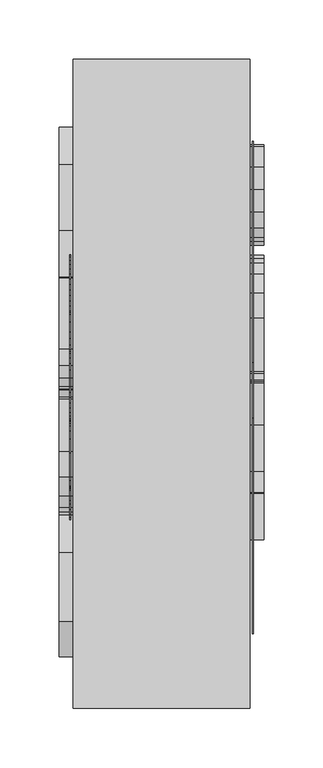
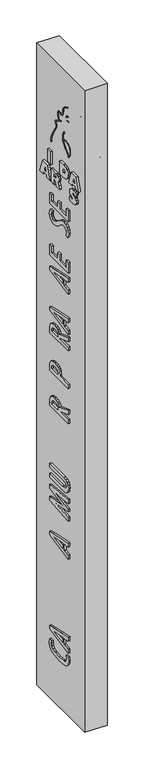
"""IFC4 building model written with IfcOpenShell, lengths in millimetres: proxy geometry, Modelos genéricos - TOTEM RETANGULAR - TOTEM RETANGULAR."""

from ifc_helpers import new_model, si_unit, point, frame, frame_2d, origin, place, context, project, spatial, polyline, circle_curve, trimmed, segment, composite_curve, outline, extrude, source, transform, mapped, element, save


def generic_models_c4e1d2f5(model_context):
    return source(origin(), model_context, "Body", "SweptSolid", [
        extrude(outline(polyline([(183.1560132, 3684.737625), (183.1560132, 3774.9026105), (243.2571429, 3774.9026105), (257.2091909, 3773.0286035), (267.8053045, 3767.4065828), (274.4939143, 3758.9735516), (276.7234509, 3748.6665136), (274.1583208, 3737.6085437), (266.4629307, 3729.2619029), (277.879753, 3709.5449578), (283.5283554, 3684.737625), (242.6989281, 3684.737625), (236.7579274, 3711.7312992), (230.8202495, 3718.2803553), (222.2842144, 3720.463374), (222.2842144, 3684.737625), (183.1560132, 3684.737625)]), holes=[polyline([(225.3942684, 3756.1891229), (222.2842144, 3756.1891229), (222.2842144, 3739.1768615), (234.1263432, 3741.2435855), (237.5952497, 3747.4437573), (234.7775939, 3753.5575387), (225.3942684, 3756.1891229)])]), frame((-142.9062385, 0.0, 0.0), z_axis=(1.0, 0.0, 0.0), x_axis=(0.0, 1.0, 0.0)), (0.0, 0.0, 1.0), 12.0),
        extrude(outline(polyline([(256.3549405, 4160.4281862), (259.9990956, 4158.3242323), (253.02492, 4146.2560142), (248.3121735, 4141.3809946), (245.3748389, 4139.4447441), (242.3262236, 4138.1472031), (237.8344848, 4136.1106848), (232.4618176, 4133.457031), (227.0653223, 4130.524468), (222.5657469, 4127.6062064), (219.8841798, 4124.9650678), (219.4389912, 4122.5219593), (221.144184, 4119.8547822), (224.6368786, 4116.6319462), (228.481001, 4112.9662087), (231.1292027, 4109.0781696), (232.3919803, 4105.1161428), (232.7266175, 4101.1940054), (232.51273, 4097.3966786), (231.8503759, 4093.710644), (230.7797983, 4090.1012307), (229.3377811, 4086.5174025), (227.553801, 4082.8735527), (225.4564066, 4079.0796843), (223.0741463, 4075.0458004), (220.4400345, 4070.6988271), (217.6193847, 4066.0880946), (214.6917167, 4061.3167686), (211.7366114, 4056.488247), (208.8336498, 4051.7059282), (206.0612516, 4047.0714746), (203.453303, 4042.6199886), (200.9861883, 4038.3006298), (198.6324839, 4034.0568667), (196.3647663, 4029.8321677), (194.1556119, 4025.5700012), (191.9775971, 4021.2138355), (189.8074147, 4016.7140536), (187.6373373, 4012.0472099), (185.4633233, 4007.1960499), (183.2813309, 4002.143319), (181.0873185, 3996.8717628), (178.8777004, 3991.3633968), (176.7032349, 3985.513276), (174.7197745, 3979.0482829), (173.0951843, 3971.6760782), (171.9973292, 3963.1043225), (171.5940742, 3953.0406764), (163.0696968, 3953.0406764), (163.7326228, 3966.436139), (165.5564058, 3977.2743149), (168.2935536, 3986.4058648), (171.6965738, 3994.6814491), (175.5377063, 4002.8515947), (179.699481, 4011.1071464), (184.1027283, 4019.4445889), (188.6683163, 4027.8602134), (193.3171136, 4036.3503113), (197.9717331, 4044.8894642), (202.5691953, 4053.2729798), (207.0536218, 4061.2078075), (211.3691838, 4068.4002763), (215.460024, 4074.5568449), (219.2205909, 4079.6074312), (222.3936697, 4084.1639422), (224.6932143, 4088.9679307), (225.8427615, 4094.6361251), (225.6301695, 4100.9484845), (224.0259858, 4106.9730143), (220.9742926, 4111.5094855), (214.8595104, 4117.2217703), (212.2781821, 4121.9462189), (214.1440752, 4127.042021), (220.6678172, 4132.9049848), (228.877079, 4137.278946), (234.281374, 4139.0357595), (240.0273777, 4142.1662973), (247.4590533, 4148.4330128), (256.3549405, 4160.4281862)])), frame((-140.9062385, 0.0, 0.0), z_axis=(1.0, 0.0, 0.0), x_axis=(0.0, 1.0, 0.0)), (0.0, 0.0, 1.0), 1.0),
        extrude(outline(polyline([(167.5, 3160.5980218), (167.5, 3235.1836885), (191.0533684, 3235.1836885), (191.0533684, 3188.0769516), (265.6390351, 3188.0769516), (265.6390351, 3231.258127), (289.1924035, 3231.258127), (289.1924035, 3188.0769516), (355.9269474, 3188.0769516), (355.9269474, 3235.1836885), (379.4803158, 3235.1836885), (379.4803158, 3160.5980218), (167.5, 3160.5980218)])), frame((-304.9062385, 0.0, 0.0), z_axis=(1.0, 0.0, 0.0), x_axis=(0.0, 1.0, 0.0)), (0.0, 0.0, 1.0), 12.0),
        extrude(outline(polyline([(167.5, 1240.3851263), (167.5, 1268.4774251), (379.4803158, 1222.9654475), (379.4803158, 1199.8414374), (167.5, 1154.6361443), (167.5, 1182.7284431), (210.6811754, 1190.7635766), (210.6811754, 1232.4726666), (167.5, 1240.3851263)]), holes=[polyline([(326.2398893, 1211.7407954), (230.3089825, 1229.0991372), (230.3089825, 1194.4437905), (326.2398893, 1211.7407954)])]), frame((-304.9062385, 0.0, 0.0), z_axis=(1.0, 0.0, 0.0), x_axis=(0.0, 1.0, 0.0)), (0.0, 0.0, 1.0), 12.0),
        extrude(outline(polyline([(356.4466316, 2068.6175946), (380.0, 2068.6175946), (380.0, 1994.0319279), (168.0196842, 1994.0319279), (168.0196842, 2068.6175946), (191.5730526, 2068.6175946), (191.5730526, 2021.5108577), (258.3075965, 2021.5108577), (258.3075965, 2064.6920331), (281.8609649, 2064.6920331), (281.8609649, 2021.5108577), (356.4466316, 2021.5108577), (356.4466316, 2068.6175946)])), frame((-142.9062385, 0.0, 0.0), z_axis=(1.0, 0.0, 0.0), x_axis=(0.0, 1.0, 0.0)), (0.0, 0.0, 1.0), 12.0),
        extrude(outline(polyline([(380.0, 2198.1611209), (380.0, 2168.7807473), (281.8609649, 2134.0027267), (281.8609649, 2131.426577), (380.0, 2131.426577), (380.0, 2103.9476472), (168.0196842, 2103.9476472), (168.0196842, 2142.7739029), (171.4507169, 2163.5709446), (181.7438149, 2178.4259743), (198.8989782, 2187.3389921), (222.9162069, 2190.3099981), (244.7981449, 2188.5848978), (260.5157248, 2183.4095972), (271.5870347, 2174.1400586), (279.5301628, 2160.1322448), (380.0, 2198.1611209)]), holes=[polyline([(262.2331579, 2131.426577), (260.1170349, 2145.7410753), (254.3820351, 2155.4399722), (243.7400835, 2160.9832942), (226.9031052, 2162.8310682), (210.5644893, 2161.1519707), (199.7001915, 2156.114678), (193.6048373, 2146.9984817), (191.5730526, 2133.0826732), (191.5730526, 2131.426577), (262.2331579, 2131.426577)])]), frame((-142.9062385, 0.0, 0.0), z_axis=(1.0, 0.0, 0.0), x_axis=(0.0, 1.0, 0.0)), (0.0, 0.0, 1.0), 12.0),
        extrude(outline(polyline([(168.0196842, 1550.4434892), (380.0, 1570.0712962), (380.0, 1542.5310295), (244.3841209, 1531.9810832), (380.0, 1503.9501213), (380.0, 1486.3464319), (244.3841209, 1459.7875556), (380.0, 1448.5015665), (380.0, 1420.8999629), (168.0196842, 1440.5277699), (168.0196842, 1466.1665928), (316.5776486, 1494.8109237), (168.0196842, 1524.6206556), (168.0196842, 1550.4434892)])), frame((-142.9062385, 0.0, 0.0), z_axis=(1.0, 0.0, 0.0), x_axis=(0.0, 1.0, 0.0)), (0.0, 0.0, 1.0), 12.0),
        extrude(outline(polyline([(380.0, 2708.4841034), (380.0, 2679.1037298), (281.8609649, 2644.3257092), (281.8609649, 2641.7495595), (380.0, 2641.7495595), (380.0, 2614.2706297), (168.0196842, 2614.2706297), (168.0196842, 2653.0968855), (171.4507169, 2673.8939271), (181.7438149, 2688.7489568), (198.8989782, 2697.6619746), (222.9162069, 2700.6329806), (244.7981449, 2698.9078804), (260.5157248, 2693.7325797), (271.5870347, 2684.4630411), (279.5301628, 2670.4552273), (380.0, 2708.4841034)]), holes=[polyline([(262.2331579, 2641.7495595), (260.1170349, 2656.0640579), (254.3820351, 2665.7629547), (243.7400835, 2671.3062767), (226.9031052, 2673.1540508), (210.5644893, 2671.4749532), (199.7001915, 2666.4376606), (193.6048373, 2657.3214642), (191.5730526, 2643.4056558), (191.5730526, 2641.7495595), (262.2331579, 2641.7495595)])]), frame((-142.9062385, 0.0, 0.0), z_axis=(1.0, 0.0, 0.0), x_axis=(0.0, 1.0, 0.0)), (0.0, 0.0, 1.0), 12.0),
        extrude(outline(polyline([(168.0196842, 562.7967747), (380.0, 608.3087523), (380.0, 580.2164535), (336.8188246, 572.3039938), (336.8188246, 530.5949039), (380.0, 522.5597704), (380.0, 494.4674716), (168.0196842, 539.6727646), (168.0196842, 562.7967747)]), holes=[polyline([(317.1910175, 534.2751177), (317.1910175, 568.9304644), (221.2601107, 551.5721226), (317.1910175, 534.2751177)])]), frame((-142.9062385, 0.0, 0.0), z_axis=(1.0, 0.0, 0.0), x_axis=(0.0, 1.0, 0.0)), (0.0, 0.0, 1.0), 12.0),
        extrude(outline(polyline([(81.6480493, 3741.9777511), (71.7330907, 3771.1112488), (89.2105312, 3775.7364573), (108.1499628, 3777.2781935), (127.0329084, 3775.3410552), (140.6726219, 3769.5296401), (148.936195, 3759.903757), (151.6907193, 3746.5232147), (148.1686496, 3733.4849112), (139.8618813, 3725.5237045), (127.7938084, 3719.8352296), (117.8522681, 3714.7581329), (115.9649704, 3710.9037924), (117.8921406, 3707.3019777), (122.6635483, 3705.8266956), (134.7714937, 3709.7341994), (145.3377029, 3720.2605362), (155.0931716, 3690.4359154), (136.0141862, 3685.3920457), (113.5992028, 3683.7107558), (94.7461615, 3685.5947309), (81.0898345, 3691.246656), (72.7963571, 3700.4937504), (70.0318646, 3713.1632334), (72.9159745, 3725.2047246), (81.6081768, 3733.6842737), (98.1818409, 3741.0739747), (110.2632046, 3746.4567606), (112.5625181, 3749.845922), (110.7150928, 3753.8331708), (105.172817, 3755.1622537), (92.6462105, 3751.8661281), (81.6480493, 3741.9777511)])), frame((-304.9062385, 0.0, 0.0), z_axis=(1.0, 0.0, 0.0), x_axis=(0.0, 1.0, 0.0)), (0.0, 0.0, 1.0), 12.0),
        extrude(outline(polyline([(492.2815089, 3685.411982), (452.2229496, 3685.411982), (447.8103943, 3699.0217911), (416.3111291, 3699.0217911), (412.270717, 3685.411982), (372.504556, 3685.411982), (402.0101968, 3775.5769674), (460.5695904, 3775.5769674), (492.2815089, 3685.411982)]), holes=[polyline([(423.940065, 3721.1377309), (439.6498252, 3721.1377309), (431.5424193, 3744.3169371), (423.940065, 3721.1377309)])]), frame((-304.9062385, 0.0, 0.0), z_axis=(1.0, 0.0, 0.0), x_axis=(0.0, 1.0, 0.0)), (0.0, 0.0, 1.0), 12.0),
        extrude(outline(polyline([(367.9422262, 4223.2868752), (371.1665303, 4217.3795547), (369.0094034, 4217.2436296), (366.6349155, 4216.8397789), (364.1073367, 4216.1738895), (361.490937, 4215.2518485), (358.8499863, 4214.0795428), (356.2487039, 4212.6655743), (353.7502631, 4211.0746173), (351.416853, 4209.4240956), (349.3106245, 4207.8334818), (347.4937283, 4206.4222485), (346.0278472, 4205.3091331), (344.9522909, 4204.5777338), (344.1336518, 4204.9962003), (344.6806499, 4206.1064537), (345.6461874, 4207.7520277), (347.0354495, 4209.962787), (348.8742033, 4212.686564), (351.2461489, 4215.6402938), (354.2451053, 4218.5005831), (357.9648911, 4220.9440387), (362.4993251, 4222.6472672), (367.9422262, 4223.2868752)])), frame((-140.9062385, 0.0, 0.0), z_axis=(1.0, 0.0, 0.0), x_axis=(0.0, 1.0, 0.0)), (0.0, 0.0, 1.0), 1.0),
        extrude(outline(polyline([(304.2428571, 3775.5769674), (364.3439868, 3775.5769674), (364.3439868, 3685.411982), (325.2157856, 3685.411982), (325.2157856, 3721.1377309), (316.6797505, 3718.9547122), (310.7420726, 3712.4056561), (304.8010719, 3685.411982), (263.9716446, 3685.411982), (269.620247, 3710.2193147), (281.0370693, 3729.9362598), (273.3416792, 3738.2829006), (270.7765491, 3749.3408705), (273.0060857, 3759.6479086), (279.6946955, 3768.0809397), (290.2908091, 3773.7029605), (304.2428571, 3775.5769674)]), holes=[polyline([(325.2157856, 3739.8512184), (325.2157856, 3756.8634798), (322.1057316, 3756.8634798), (312.7224061, 3754.2318957), (309.9047503, 3748.1181142), (313.3736568, 3741.9179424), (325.2157856, 3739.8512184)])]), frame((-304.9062385, 0.0, 0.0), z_axis=(1.0, 0.0, 0.0), x_axis=(0.0, 1.0, 0.0)), (0.0, 0.0, 1.0), 12.0),
        extrude(outline(polyline([(-292.9062385, 550.0), (-142.9062385, 550.0), (-142.9062385, 0.0), (-292.9062385, 0.0), (-292.9062385, 550.0)])), frame((0.0, 0.0, 37.9), z_axis=(0.0, 0.0, 1.0), x_axis=(1.0, 0.0, 0.0)), (0.0, 0.0, 1.0), 4500.0),
        extrude(outline(polyline([(275.4369384, 3799.737625), (200.5829883, 3799.737625), (200.5829883, 3889.9026105), (239.7111895, 3889.9026105), (239.7111895, 3821.8535649), (275.4369384, 3821.8535649), (275.4369384, 3799.737625)])), frame((-142.9062385, 0.0, 0.0), z_axis=(1.0, 0.0, 0.0), x_axis=(0.0, 1.0, 0.0)), (0.0, 0.0, 1.0), 12.0),
        extrude(outline(polyline([(193.5911825, 1697.3641762), (216.9375389, 1700.2891795), (379.4803158, 1700.2891795), (379.4803158, 1672.8102497), (231.3517097, 1672.8102497), (196.8497052, 1669.3140465), (189.5582816, 1663.2110253), (187.127807, 1651.8943678), (189.4356078, 1640.3706983), (196.35901, 1633.7693148), (229.6956135, 1629.6290742), (379.4803158, 1629.6290742), (379.4803158, 1602.1501444), (216.6308544, 1602.1501444), (193.4186725, 1605.3588308), (176.8385426, 1614.9848901), (166.8904646, 1631.0283222), (163.5744386, 1653.4891271), (166.9096324, 1673.96415), (176.9152137, 1688.5891664), (193.5911825, 1697.3641762)])), frame((-304.9062385, 0.0, 0.0), z_axis=(1.0, 0.0, 0.0), x_axis=(0.0, 1.0, 0.0)), (0.0, 0.0, 1.0), 12.0),
        extrude(outline(polyline([(192.9654466, 4038.3597501), (190.6444837, 4033.382429), (174.9753262, 4042.1915276), (167.2035293, 4049.4825176), (163.1018303, 4056.0722113), (160.8051313, 4062.5835687), (159.6465239, 4069.5409472), (159.1604514, 4077.2788337), (159.4022159, 4085.6186846), (160.5145994, 4094.2957897), (162.6354341, 4103.0114715), (165.8844864, 4111.343085), (170.3774027, 4118.8397125), (176.0811873, 4125.0574316), (181.524955, 4129.6199863), (184.4966115, 4132.2320926), (184.4053471, 4133.6772573), (182.3380612, 4135.7881831), (179.0404013, 4139.3371316), (174.9509179, 4144.285708), (170.4929486, 4150.5654511), (165.9835105, 4157.9569467), (161.665875, 4166.1360764), (157.7818304, 4174.7766168), (154.5731652, 4183.5523445), (152.2397295, 4192.1696596), (150.714482, 4200.5425742), (149.825751, 4208.6664917), (149.401619, 4216.5370066), (149.2701685, 4224.1497134), (149.2609439, 4231.500529), (149.3188729, 4238.610818), (149.5857651, 4245.5453673), (150.2226656, 4252.3732062), (151.3906192, 4259.163364), (153.250671, 4265.9848698), (155.942558, 4272.8959597), (159.4147096, 4279.857963), (163.5145153, 4286.7810276), (168.0884505, 4293.5748386), (172.9829908, 4300.149081), (178.0481636, 4306.4141802), (183.2437373, 4312.3034412), (188.6575215, 4317.7768634), (194.3845647, 4322.7959555), (200.5199157, 4327.3222261), (207.1584933, 4331.3172166), (214.3005534, 4334.7663953), (221.6845401, 4337.7214051), (229.0040132, 4340.2452339), (235.9525327, 4342.4008694), (242.3152718, 4344.2339566), (248.2550725, 4345.7186462), (254.0320826, 4346.8106684), (259.90671, 4347.4665282), (266.1430909, 4347.6538267), (273.0081489, 4347.3484614), (280.7503491, 4346.5292696), (289.1813592, 4345.2396924), (297.6700142, 4343.5886675), (305.5751323, 4341.6844909), (312.7394036, 4339.4581588), (319.703492, 4336.5849163), (327.0624224, 4332.7200665), (335.55878, 4327.2322287), (346.4456763, 4318.498159), (361.0865548, 4304.6802574), (368.8600245, 4291.9892541), (374.2374572, 4279.81643), (377.5146229, 4268.1518216), (378.9872914, 4256.9854654), (378.9512327, 4246.3073979), (377.7022168, 4236.1076555), (382.3036954, 4219.26651), (391.9540782, 4205.4008262), (400.5676847, 4194.0133906), (405.4652421, 4185.2430078), (407.3814193, 4179.7856054), (406.3313262, 4175.6474524), (401.6783738, 4169.7336539), (394.6051331, 4166.0868682), (389.5506059, 4162.4966895), (390.7078325, 4154.4286765), (394.2032398, 4145.3291487), (394.5581674, 4139.790221), (390.8034694, 4137.6264165), (390.4623489, 4131.2435855), (388.328997, 4123.4519778), (388.9447759, 4114.2970406), (390.1878716, 4105.9971634), (389.0221032, 4099.8245566), (384.7384798, 4095.3545184), (378.3586528, 4092.3712675), (370.9632323, 4090.8161021), (362.1643323, 4090.9628856), (351.2256881, 4093.164377), (337.4977644, 4097.7550852), (321.770045, 4104.7667153), (306.0167938, 4113.981666), (292.2475543, 4125.1749125), (289.1028559, 4138.7125875), (298.2087916, 4127.7059462), (306.7411082, 4120.4290583), (315.3733998, 4114.4893942), (324.4142799, 4109.2195106), (334.034754, 4104.601636), (344.1707078, 4100.6971533), (354.0556616, 4097.8006143), (362.8255146, 4096.2410356), (370.4433831, 4096.1242126), (377.6431053, 4097.3502619), (382.5845839, 4100.5840396), (383.728801, 4106.8780417), (383.1852192, 4115.8518584), (382.9826802, 4126.3641423), (384.6890382, 4135.4198828), (387.1787998, 4140.3229764), (385.6378992, 4147.3382627), (381.8198633, 4156.5978261), (382.2304779, 4165.1246961), (388.4580648, 4168.8713495), (395.6979416, 4171.8675284), (399.6391929, 4177.7213967), (399.5016323, 4184.25622), (396.0955668, 4191.3301278), (390.4305425, 4199.9696724), (383.1758115, 4209.7599716), (375.7753175, 4220.978125), (372.2937843, 4237.0613081), (373.4516043, 4246.4818405), (373.486312, 4256.2688325), (372.1364011, 4266.4804996), (369.1303679, 4277.17793), (364.1565321, 4288.4326409), (356.8888956, 4300.2946611), (345.86224, 4310.8702591), (337.1501775, 4318.3687815), (330.2034338, 4323.5503037), (324.3979111, 4327.217168), (319.1808986, 4330.0551671), (314.3246183, 4332.2997562), (309.5535087, 4334.108635), (304.570684, 4335.6370018), (299.1033418, 4337.0206336), (293.160092, 4338.3010516), (287.0176068, 4339.4302176), (280.9568389, 4340.3589148), (275.2688467, 4341.0395715), (270.1330742, 4341.4440538), (265.4747713, 4341.5835311), (261.1827147, 4341.4723073), (257.1216006, 4341.1221375), (253.154722, 4340.5428137), (249.1537525, 4339.7385024), (244.9947091, 4338.7143016), (240.5663117, 4337.48662), (235.781618, 4336.0737806), (230.7057181, 4334.4811907), (225.4721418, 4332.7071758), (220.2076915, 4330.7363282), (215.0358428, 4328.5454336), (210.0970175, 4326.1252368), (205.4641252, 4323.4523899), (201.0999424, 4320.4996554), (196.9483154, 4317.2687355), (192.9708964, 4313.7655234), (189.1291682, 4309.9968946), (185.3867086, 4305.9714662), (181.7079613, 4301.6998704), (178.0682661, 4297.2035644), (174.5129968, 4292.5448389), (171.1075529, 4287.769058), (167.9146278, 4282.9186775), (164.9967334, 4278.0375955), (162.4142486, 4273.173658), (160.2264122, 4268.3765385), (158.4858999, 4263.6897563), (157.1701629, 4259.0636815), (156.2138302, 4254.4280832), (155.5588633, 4249.7402785), (155.1492071, 4244.958983), (154.9287994, 4240.0502703), (154.8414845, 4234.9834105), (154.8242898, 4229.7338143), (154.8328128, 4224.3272706), (154.8979268, 4218.8447728), (155.087653, 4213.2815055), (155.466797, 4207.6331049), (156.0985144, 4201.8973483), (157.0451082, 4196.0690194), (158.3705604, 4190.1404635), (160.1439101, 4184.0944875), (162.3842822, 4177.9270368), (165.0161226, 4171.7553685), (167.9365058, 4165.7344704), (171.0443652, 4160.0093362), (174.234723, 4154.7240762), (177.3941306, 4150.0344719), (180.4252306, 4146.0338296), (183.2134509, 4142.729465), (185.5963883, 4140.1398219), (187.4286295, 4138.2684299), (189.405009, 4135.9091065), (189.0533554, 4128.9789013), (186.231122, 4126.174702), (182.7907481, 4123.4134394), (178.8352985, 4119.9290095), (175.1729101, 4115.8820183), (172.1077254, 4111.2014244), (169.582634, 4105.9077294), (167.604695, 4100.1842256), (166.1621636, 4094.2246838), (165.2297492, 4088.220061), (164.7660849, 4082.312206), (164.7210253, 4076.6198144), (165.0392936, 4071.2478499), (165.6688187, 4066.3845725), (166.6597853, 4062.1225158), (168.2236735, 4058.155733), (170.6615293, 4054.0662054), (174.3632017, 4049.780728), (181.0826987, 4044.6999223), (192.9654466, 4038.3597501)])), frame((-140.9062385, 0.0, 0.0), z_axis=(1.0, 0.0, 0.0), x_axis=(0.0, 1.0, 0.0)), (0.0, 0.0, 1.0), 1.0),
        extrude(outline(polyline([(-130.9062385, 142.7412995), (-142.9062385, 142.7412995), (-142.9062385, 181.8695007), (-130.9062385, 181.8695007), (-130.9062385, 142.7412995)])), frame((0.0, 0.0, 3799.737625), z_axis=(0.0, 0.0, 1.0), x_axis=(1.0, 0.0, 0.0)), (0.0, 0.0, 1.0), 90.1649854),
        extrude(outline(polyline([(217.1187736, 3890.5769674), (261.8557047, 3890.5769674), (261.8557047, 3800.411982), (218.0757133, 3800.411982), (202.8876182, 3801.8806186), (190.1250994, 3806.2865285), (179.9642605, 3813.3439588), (172.5812049, 3822.7671567), (166.5870409, 3845.3084031), (169.8798438, 3862.6795169), (179.7582526, 3877.3127198), (195.6839888, 3887.2609055), (217.1187736, 3890.5769674)]), holes=[polyline([(222.7275035, 3834.4365048), (222.7275035, 3856.5524446), (219.7769394, 3856.5524446), (209.2306664, 3853.83447), (205.7152421, 3845.6805463), (209.4499651, 3837.0680889), (222.7275035, 3834.4365048)])]), frame((-304.9062385, 0.0, 0.0), z_axis=(1.0, 0.0, 0.0), x_axis=(0.0, 1.0, 0.0)), (0.0, 0.0, 1.0), 12.0),
        extrude(outline(polyline([(356.4466316, 1817.3816647), (380.0, 1817.3816647), (380.0, 1742.795998), (168.0196842, 1742.795998), (168.0196842, 1770.2749279), (356.4466316, 1770.2749279), (356.4466316, 1817.3816647)])), frame((-142.9062385, 0.0, 0.0), z_axis=(1.0, 0.0, 0.0), x_axis=(0.0, 1.0, 0.0)), (0.0, 0.0, 1.0), 12.0),
        extrude(outline(polyline([(287.5009044, 4158.9985892), (291.1450595, 4161.1025431), (300.0409467, 4149.1073697), (307.4726223, 4142.8406542), (313.218626, 4139.7101164), (318.622921, 4137.9533029), (326.8321828, 4133.5793418), (333.3559248, 4127.7163779), (335.2218179, 4122.6205758), (332.6404896, 4117.8961272), (326.5257074, 4112.1838424), (323.4740142, 4107.6473712), (321.8698305, 4101.6228414), (321.6572385, 4095.310482), (322.8067857, 4089.6422877), (325.1063303, 4084.8382992), (328.2794091, 4080.2817882), (332.039976, 4075.2312019), (336.1308162, 4069.0746333), (340.4463782, 4061.8821644), (344.9308047, 4053.9473367), (349.5282669, 4045.5638211), (354.1828864, 4037.0246682), (358.8316837, 4028.5345704), (363.3972717, 4020.1189458), (367.800519, 4011.7815033), (371.9622937, 4003.5259516), (375.8034262, 3995.355806), (379.2064464, 3987.0802217), (381.9435942, 3977.9486719), (383.7673772, 3967.1104959), (384.4303032, 3953.7150334), (375.9059258, 3953.7150334), (375.5026708, 3963.7786794), (374.4048157, 3972.3504351), (372.7802255, 3979.7226399), (370.7967651, 3986.187633), (368.6222996, 3992.0377538), (366.4126815, 3997.5461197), (364.2186691, 4002.8176759), (362.0366767, 4007.8704068), (359.8626627, 4012.7215668), (357.6925853, 4017.3884105), (355.5224029, 4021.8881924), (353.3443881, 4026.2443581), (351.1352337, 4030.5065247), (348.8675161, 4034.7312237), (346.5138117, 4038.9749867), (344.046697, 4043.2943455), (341.4387484, 4047.7458315), (338.6663502, 4052.3802851), (335.7633886, 4057.1626039), (332.8082833, 4061.9911255), (329.8806153, 4066.7624516), (327.0599655, 4071.373184), (324.4258537, 4075.7201574), (322.0435934, 4079.7540412), (319.946199, 4083.5479096), (318.1622189, 4087.1917594), (316.7202017, 4090.7755877), (315.6496241, 4094.3850009), (314.98727, 4098.0710355), (314.7733825, 4101.8683624), (315.1080197, 4105.7904997), (316.3707973, 4109.7525265), (319.018999, 4113.6405656), (322.8631214, 4117.3063032), (326.355816, 4120.5291391), (328.0610088, 4123.1963162), (327.6158202, 4125.6394247), (324.9342531, 4128.2805633), (320.4346777, 4131.1988249), (315.0381824, 4134.131388), (309.6655152, 4136.7850418), (305.1737764, 4138.82156), (302.1251611, 4140.1191011), (299.1878265, 4142.0553515), (294.47508, 4146.9303712), (287.5009044, 4158.9985892)])), frame((-295.9062385, 0.0, 0.0), z_axis=(1.0, 0.0, 0.0), x_axis=(0.0, 1.0, 0.0)), (0.0, 0.0, 1.0), 1.0),
        extrude(outline(polyline([(167.5, 2679.7780867), (167.5, 2709.1584603), (267.9698372, 2671.1295842), (275.9129653, 2685.1373981), (286.9842752, 2694.4069366), (302.7018551, 2699.5822373), (324.5837931, 2701.3073375), (348.6010218, 2698.3363316), (365.7561851, 2689.4233137), (376.0492831, 2674.568284), (379.4803158, 2653.7712424), (379.4803158, 2614.9449866), (167.5, 2614.9449866), (167.5, 2642.4239164), (265.6390351, 2642.4239164), (265.6390351, 2645.0000661), (167.5, 2679.7780867)]), holes=[polyline([(287.3829651, 2656.7384148), (285.2668421, 2642.4239164), (355.9269474, 2642.4239164), (355.9269474, 2644.0800127), (353.8951627, 2657.9958212), (347.7998085, 2667.1120175), (336.9355107, 2672.1493101), (320.5968948, 2673.8284077), (303.7599165, 2671.9806337), (293.1179649, 2666.4373116), (287.3829651, 2656.7384148)])]), frame((-304.9062385, 0.0, 0.0), z_axis=(1.0, 0.0, 0.0), x_axis=(0.0, 1.0, 0.0)), (0.0, 0.0, 1.0), 12.0),
        extrude(outline(polyline([(167.5, 3097.1756703), (167.5, 3125.2679691), (379.4803158, 3079.7559916), (379.4803158, 3056.6319815), (167.5, 3011.4266884), (167.5, 3039.5189872), (210.6811754, 3047.5541207), (210.6811754, 3089.2632106), (167.5, 3097.1756703)]), holes=[polyline([(326.2398893, 3068.5313395), (230.3089825, 3085.8896813), (230.3089825, 3051.2343345), (326.2398893, 3068.5313395)])]), frame((-304.9062385, 0.0, 0.0), z_axis=(1.0, 0.0, 0.0), x_axis=(0.0, 1.0, 0.0)), (0.0, 0.0, 1.0), 12.0),
        extrude(outline(polyline([(177.1900826, 4208.5627691), (176.3334697, 4208.7679496), (179.5577738, 4212.0044376), (183.9976059, 4210.8764795), (187.7047346, 4209.891667), (190.7248347, 4209.0422562), (193.1035811, 4208.3205032), (194.8866485, 4207.7186641), (196.1197119, 4207.228995), (196.8484461, 4206.8437519), (197.1185258, 4206.5551909), (196.975626, 4206.3555681), (196.4654215, 4206.2371397), (195.6335871, 4206.1921616), (194.5257976, 4206.21289), (193.1877279, 4206.2915809), (191.6650528, 4206.4204905), (190.0034472, 4206.5918748), (188.2485858, 4206.7979899), (186.4461436, 4207.0310918), (184.6417953, 4207.2834368), (182.8812159, 4207.5472808), (181.21008, 4207.8148799), (179.6740627, 4208.0784903), (178.3188386, 4208.330368), (177.1900826, 4208.5627691)])), frame((-295.9062385, 0.0, 0.0), z_axis=(1.0, 0.0, 0.0), x_axis=(0.0, 1.0, 0.0)), (0.0, 0.0, 1.0), 1.0),
        extrude(outline(polyline([(163.5744386, 442.6987816), (168.9720855, 467.6628986), (191.0533684, 467.6628986), (187.127807, 447.0537013), (189.6962896, 433.9889422), (197.4017373, 423.3776591), (209.4467704, 415.6875456), (225.0340093, 411.3862957), (273.1221365, 408.7794776), (316.2419751, 411.7543171), (342.3101563, 420.6788356), (355.4669207, 433.8049315), (359.8525088, 449.3845034), (355.9269474, 467.6628986), (380.2776955, 467.6628986), (383.4058772, 443.6801719), (377.4485311, 419.6667768), (359.5764928, 399.5176061), (344.8498872, 391.5476431), (324.4994548, 385.8548124), (266.9271099, 381.3005478), (214.3690564, 385.8548124), (196.238253, 391.5476431), (183.5395985, 399.5176061), (168.5657286, 419.4214292), (163.5744386, 442.6987816)])), frame((-304.9062385, 0.0, 0.0), z_axis=(1.0, 0.0, 0.0), x_axis=(0.0, 1.0, 0.0)), (0.0, 0.0, 1.0), 12.0),
        extrude(outline(polyline([(167.5, 1543.2053864), (167.5, 1570.7456532), (379.4803158, 1551.1178461), (379.4803158, 1525.2950125), (230.9223514, 1495.4852806), (379.4803158, 1466.8409498), (379.4803158, 1441.2021268), (167.5, 1421.5743198), (167.5, 1449.1759234), (303.1158791, 1460.4619125), (167.5, 1487.0207888), (167.5, 1504.6244783), (303.1158791, 1532.6554402), (167.5, 1543.2053864)])), frame((-304.9062385, 0.0, 0.0), z_axis=(1.0, 0.0, 0.0), x_axis=(0.0, 1.0, 0.0)), (0.0, 0.0, 1.0), 12.0),
        extrude(outline(polyline([(167.5, 3521.7496709), (167.5, 3596.3353376), (191.0533684, 3596.3353376), (191.0533684, 3549.2286008), (265.6390351, 3549.2286008), (265.6390351, 3592.4097762), (289.1924035, 3592.4097762), (289.1924035, 3549.2286008), (355.9269474, 3549.2286008), (355.9269474, 3596.3353376), (379.4803158, 3596.3353376), (379.4803158, 3521.7496709), (167.5, 3521.7496709)])), frame((-304.9062385, 0.0, 0.0), z_axis=(1.0, 0.0, 0.0), x_axis=(0.0, 1.0, 0.0)), (0.0, 0.0, 1.0), 12.0),
        extrude(outline(polyline([(222.755786, 4104.0177266), (232.0037649, 4109.5398734), (243.138218, 4088.601115), (247.485044, 4073.1775758), (248.4465075, 4061.9818512), (248.1935177, 4053.6751716), (246.7403966, 4046.8288056), (243.8891799, 4040.0246914), (239.6486205, 4032.5767117), (234.2902467, 4024.7291858), (228.1022732, 4016.7853529), (221.3536883, 4008.9702429), (214.28325, 4001.3859144), (207.1270649, 3994.1236409), (200.119232, 3987.2717689), (193.4831658, 3980.9030688), (187.4390493, 3975.0849055), (182.4725234, 3969.6735297), (179.8022096, 3963.9504518), (178.6326853, 3959.825196), (175.4244693, 3962.0397259), (171.0754405, 3967.7068489), (166.7778145, 3975.2764456), (163.2742893, 3984.5063767), (160.8609117, 3994.5518114), (159.6997599, 4004.4226794), (159.8606475, 4013.6328433), (161.337828, 4022.1088691), (164.0938586, 4029.7799325), (167.9975878, 4036.5448711), (172.9431476, 4042.321197), (179.0755408, 4047.1676311), (186.5910224, 4051.1799295), (195.2392007, 4054.2992404), (204.482795, 4056.3652934), (214.0223274, 4057.197282), (223.9064808, 4056.5874522), (233.6954152, 4054.7594584), (240.4684609, 4054.029347), (242.6638665, 4056.6493166), (242.9211407, 4063.1527803), (241.7989796, 4072.3530126), (238.6641904, 4083.1239035), (232.8125748, 4094.8724273), (222.755786, 4104.0177266)]), holes=[composite_curve([segment(trimmed(circle_curve(frame_2d((208.8495906, 4002.2573097)), 43.5117173), [point((165.417942, 4004.8957651))], [point((176.313165, 3973.3669902))], True, "CARTESIAN"), True, "CONTINUOUS"), segment(trimmed(circle_curve(frame_2d((2.4591785, 4193.8956061)), 280.8168069), [point((176.313165, 3973.3669902))], [point((240.7682511, 4045.3464056))], True, "CARTESIAN"), True, "CONTINUOUS"), segment(trimmed(circle_curve(frame_2d((214.4265662, 3990.112048)), 61.1941061), [point((240.7682511, 4045.3464056))], [point((184.1427532, 4043.2873175))], True, "CARTESIAN"), True, "CONTINUOUS"), segment(trimmed(circle_curve(frame_2d((202.8801647, 4010.3863448)), 37.8624431), [point((184.1427532, 4043.2873175))], [point((165.417942, 4004.8957651))], True, "CARTESIAN"), True, "CONTINUOUS")], self_intersect=False)]), frame((-295.9062385, 0.0, 0.0), z_axis=(1.0, 0.0, 0.0), x_axis=(0.0, 1.0, 0.0)), (0.0, 0.0, 1.0), 1.0),
        extrude(outline(polyline([(168.0196842, 1699.6148226), (330.5624611, 1699.6148226), (353.9088175, 1696.6898193), (370.5847863, 1687.9148095), (380.5903676, 1673.2897931), (383.9255614, 1652.8147702), (380.6095354, 1630.3539653), (370.6614574, 1614.3105332), (354.0813275, 1604.6844739), (330.8691456, 1601.4757875), (168.0196842, 1601.4757875), (168.0196842, 1628.9547173), (317.8043865, 1628.9547173), (351.14099, 1633.0949579), (358.0643922, 1639.6963414), (360.372193, 1651.2200109), (357.9417184, 1662.5366684), (350.6502948, 1668.6396896), (316.1482903, 1672.1358928), (168.0196842, 1672.1358928), (168.0196842, 1699.6148226)])), frame((-142.9062385, 0.0, 0.0), z_axis=(1.0, 0.0, 0.0), x_axis=(0.0, 1.0, 0.0)), (0.0, 0.0, 1.0), 12.0),
        extrude(outline(composite_curve([segment(trimmed(circle_curve(frame_2d((280.2613291, 4161.9260144)), 3.0071864), [point((279.1865583, 4164.7345795))], [point((283.0698942, 4160.8512436))], False, "CARTESIAN"), True, "CONTINUOUS"), segment(polyline([(283.0698942, 4160.8512436), (274.5489909, 4156.2495611), (267.7735567, 4155.5857921), (261.7678609, 4156.7857972), (255.9523886, 4159.8862908), (251.2706089, 4164.6939014), (248.2498924, 4170.8414148), (246.3244942, 4177.6677003), (244.8975915, 4184.5540604), (244.0029507, 4191.391048), (243.9323518, 4198.2735958), (244.9412875, 4205.036709), (247.2285446, 4211.1169808), (250.8792686, 4215.9904268), (255.6124932, 4219.3788129), (261.200793, 4220.9920849), (267.8548225, 4220.32748), (275.0814123, 4217.465559), (280.3851216, 4214.2146479), (284.366808, 4212.6628225), (289.1556222, 4214.0425476), (293.5044319, 4217.5707216), (297.1962809, 4222.7062128), (300.2007842, 4229.1146479), (302.2815815, 4236.5344637), (303.425714, 4244.4985139), (303.9344774, 4252.2585608), (304.2106827, 4259.159603), (304.8699826, 4264.8517825), (306.3643497, 4269.2571576), (308.7775257, 4272.879959), (312.8027588, 4277.1367822), (319.6541868, 4283.6560362), (331.7206767, 4292.3079216), (351.9072326, 4302.1859421), (354.7361047, 4303.3288806), (358.954807, 4299.1101784), (353.9645219, 4297.0939724), (334.9805791, 4287.8590866), (323.7245186, 4279.9103245), (317.1461629, 4273.7161625), (313.2768726, 4269.6915222), (311.4737655, 4267.1831744), (310.3887497, 4264.3490157), (309.7682064, 4260.0014793), (309.4858067, 4253.7301424), (309.0798995, 4246.1151496), (308.1115116, 4237.894317), (306.2058345, 4229.7088796), (303.2213076, 4222.3050989), (299.3192429, 4215.9873558), (294.3091448, 4210.8645914), (287.7391812, 4207.6062703), (279.863353, 4208.1794666), (275.0922143, 4211.1581654), (269.5861937, 4213.943168), (264.0465761, 4215.4916143), (260.0970468, 4215.2385145), (256.6701356, 4213.6537742), (253.6390002, 4210.8769564), (251.3509029, 4207.0177511), (249.8981508, 4201.9699493), (249.3429612, 4196.1988118), (249.6264474, 4190.2172102), (250.5797303, 4184.027967), (251.9890976, 4177.5915617), (253.7787943, 4171.7381358), (256.2103722, 4167.2263959), (259.6784437, 4163.9757967), (264.0237674, 4161.8156488), (268.2451439, 4161.0656494), (273.6038292, 4161.6631008), (279.1865583, 4164.7345795)]), True, "CONTINUOUS")], self_intersect=False)), frame((-140.9062385, 0.0, 0.0), z_axis=(1.0, 0.0, 0.0), x_axis=(0.0, 1.0, 0.0)), (0.0, 0.0, 1.0), 1.0),
        extrude(outline(polyline([(207.4607713, 4231.3576153), (209.6235832, 4224.9781864), (210.0910278, 4223.2336597), (208.4476135, 4224.2837788), (203.7113485, 4229.5942029), (199.8853143, 4233.2228212), (196.806404, 4235.4705751), (194.3115103, 4236.6384059), (192.2375262, 4237.0272548), (190.4426425, 4236.935659), (188.9132434, 4236.6476836), (187.6834467, 4236.4420049), (186.7874509, 4236.5972905), (186.2533652, 4237.3182769), (186.0800449, 4238.4545249), (186.2575711, 4239.7490662), (186.7760354, 4240.9451875), (187.6288657, 4241.8604244), (188.8173189, 4242.4865676), (190.3437738, 4242.840378), (192.2106095, 4242.9386163), (194.4189801, 4242.7951099), (196.9195036, 4242.3026322), (199.5954041, 4241.1925236), (202.325222, 4239.1849043), (204.9874976, 4235.9998948), (207.4607713, 4231.3576153)])), frame((-295.9062385, 0.0, 0.0), z_axis=(1.0, 0.0, 0.0), x_axis=(0.0, 1.0, 0.0)), (0.0, 0.0, 1.0), 1.0),
        extrude(outline(polyline([(458.2894688, 3775.0621004), (475.7669093, 3770.4368919), (465.8519507, 3741.3033942), (454.8537895, 3751.1917711), (442.327183, 3754.4878968), (436.7849072, 3753.1588139), (434.9374819, 3749.1715651), (437.2367954, 3745.7824036), (449.3181591, 3740.3996178), (465.8918232, 3733.0099168), (474.5840255, 3724.5303677), (477.4681354, 3712.4888765), (474.7036429, 3699.8193935), (466.4101655, 3690.5722991), (452.7538385, 3684.9203739), (433.9007972, 3683.0363989), (411.4858138, 3684.7176888), (392.4068284, 3689.7615585), (402.1622971, 3719.5861793), (412.7285063, 3709.0598425), (424.8364517, 3705.1523387), (429.6078594, 3706.6276208), (431.5350296, 3710.2294355), (429.6477319, 3714.083776), (419.7061916, 3719.1608727), (407.6381187, 3724.8493476), (399.3313504, 3732.8105543), (395.8092807, 3745.8488578), (398.563805, 3759.2294001), (406.8273781, 3768.8552832), (420.4670916, 3774.6666982), (439.3500372, 3776.6038366), (458.2894688, 3775.0621004)])), frame((-142.9062385, 0.0, 0.0), z_axis=(1.0, 0.0, 0.0), x_axis=(0.0, 1.0, 0.0)), (0.0, 0.0, 1.0), 12.0),
        extrude(outline(polyline([(356.4466316, 3595.6609807), (380.0, 3595.6609807), (380.0, 3521.075314), (168.0196842, 3521.075314), (168.0196842, 3595.6609807), (191.5730526, 3595.6609807), (191.5730526, 3548.5542439), (258.3075965, 3548.5542439), (258.3075965, 3591.7354193), (281.8609649, 3591.7354193), (281.8609649, 3548.5542439), (356.4466316, 3548.5542439), (356.4466316, 3595.6609807)])), frame((-142.9062385, 0.0, 0.0), z_axis=(1.0, 0.0, 0.0), x_axis=(0.0, 1.0, 0.0)), (0.0, 0.0, 1.0), 12.0),
        extrude(outline(polyline([(379.4803158, 2395.6655801), (379.4803158, 2351.9323726), (167.5, 2351.9323726), (167.5, 2379.4113024), (261.7134737, 2379.4113024), (265.5776982, 2412.2265422), (271.6423839, 2422.4621369), (282.7213609, 2430.8422905), (298.8452977, 2436.4316152), (320.0448627, 2438.2947234), (346.0478734, 2435.630402), (364.6214525, 2427.6374376), (375.7656, 2414.3158303), (379.4803158, 2395.6655801)]), holes=[polyline([(286.9919423, 2393.8791429), (285.2668421, 2379.4113024), (355.9269474, 2379.4113024), (354.0485049, 2395.0292098), (348.4131775, 2404.4674248), (337.5335454, 2409.2287014), (319.9221889, 2410.8157936), (302.5561799, 2408.998688), (292.167243, 2403.5473713), (286.9919423, 2393.8791429)])]), frame((-304.9062385, 0.0, 0.0), z_axis=(1.0, 0.0, 0.0), x_axis=(0.0, 1.0, 0.0)), (0.0, 0.0, 1.0), 12.0),
        extrude(outline(polyline([(380.0, 1020.4926997), (168.0196842, 1020.4926997), (168.0196842, 1062.3858003), (173.5323378, 1089.0290149), (190.0702986, 1109.3391949), (203.5241636, 1116.8395473), (221.8351441, 1122.1969419), (273.0284517, 1126.4828576), (323.0870268, 1122.7183055), (341.6356877, 1118.0126155), (355.8639311, 1111.4246494), (366.4234612, 1102.3985417), (373.9659828, 1090.3784266), (378.4914957, 1075.3643043), (380.0, 1057.3561747), (380.0, 1020.4926997)]), holes=[polyline([(191.5730526, 1052.2652123), (191.5730526, 1047.9716295), (356.4466316, 1047.9716295), (354.8212038, 1065.6136545), (349.9449205, 1078.4253988), (340.6370464, 1087.4955925), (325.7168462, 1093.9129653), (303.5588922, 1097.7311872), (272.5377566, 1099.0039278), (234.1638604, 1096.6117888), (209.4527581, 1089.4353718), (196.042979, 1075.358554), (191.5730526, 1052.2652123)])]), frame((-142.9062385, 0.0, 0.0), z_axis=(1.0, 0.0, 0.0), x_axis=(0.0, 1.0, 0.0)), (0.0, 0.0, 1.0), 12.0),
        extrude(outline(polyline([(168.0196842, 814.0327046), (380.0, 859.5446821), (380.0, 831.4523833), (336.8188246, 823.5399236), (336.8188246, 781.8308337), (380.0, 773.7957002), (380.0, 745.7034014), (168.0196842, 790.9086945), (168.0196842, 814.0327046)]), holes=[polyline([(317.1910175, 785.5110475), (317.1910175, 820.1663943), (221.2601107, 802.8080525), (317.1910175, 785.5110475)])]), frame((-142.9062385, 0.0, 0.0), z_axis=(1.0, 0.0, 0.0), x_axis=(0.0, 1.0, 0.0)), (0.0, 0.0, 1.0), 12.0),
        extrude(outline(polyline([(168.0196842, 2796.4412136), (380.0, 2841.9531911), (380.0, 2813.8608923), (336.8188246, 2805.9484326), (336.8188246, 2764.2393427), (380.0, 2756.2042092), (380.0, 2728.1119104), (168.0196842, 2773.3172035), (168.0196842, 2796.4412136)]), holes=[polyline([(317.1910175, 2767.9195565), (317.1910175, 2802.5749033), (221.2601107, 2785.2165615), (317.1910175, 2767.9195565)])]), frame((-142.9062385, 0.0, 0.0), z_axis=(1.0, 0.0, 0.0), x_axis=(0.0, 1.0, 0.0)), (0.0, 0.0, 1.0), 12.0),
        extrude(outline(polyline([(337.4089722, 4222.5593028), (337.8764168, 4224.3038295), (340.0392287, 4230.6832584), (342.5125024, 4235.3255379), (345.174778, 4238.5105474), (347.9045959, 4240.5181667), (350.5804964, 4241.6282753), (353.0810199, 4242.120753), (355.2893905, 4242.2642594), (357.1562262, 4242.1660211), (358.6826811, 4241.8122107), (359.8711343, 4241.1860675), (360.7239646, 4240.2708305), (361.2424289, 4239.0747092), (361.4199551, 4237.780168), (361.2466348, 4236.64392), (360.7125491, 4235.9229336), (359.8165533, 4235.767648), (358.5867566, 4235.9733266), (357.0573575, 4236.2613021), (355.2624738, 4236.3528979), (353.1884897, 4235.964049), (350.693596, 4234.7962182), (347.6146857, 4232.5484643), (343.7886515, 4228.919846), (339.0523865, 4223.6094219), (337.4089722, 4222.5593028)])), frame((-140.9062385, 0.0, 0.0), z_axis=(1.0, 0.0, 0.0), x_axis=(0.0, 1.0, 0.0)), (0.0, 0.0, 1.0), 1.0),
        extrude(outline(polyline([(163.5301502, 3800.411982), (123.4715909, 3800.411982), (119.0590356, 3814.0217911), (87.5597704, 3814.0217911), (83.5193583, 3800.411982), (43.7531973, 3800.411982), (73.2588381, 3890.5769674), (131.8182317, 3890.5769674), (163.5301502, 3800.411982)]), holes=[polyline([(95.1887063, 3836.1377309), (110.8984665, 3836.1377309), (102.7910606, 3859.3169371), (95.1887063, 3836.1377309)])]), frame((-304.9062385, 0.0, 0.0), z_axis=(1.0, 0.0, 0.0), x_axis=(0.0, 1.0, 0.0)), (0.0, 0.0, 1.0), 12.0),
        extrude(outline(polyline([(285.6442953, 3799.737625), (285.6442953, 3889.9026105), (330.3812264, 3889.9026105), (351.8160112, 3886.5865486), (367.7417474, 3876.6383629), (377.6201562, 3862.0051599), (380.9129591, 3844.6340461), (374.9187951, 3822.0927998), (367.5357395, 3812.6696019), (357.3749006, 3805.6121716), (344.6123818, 3801.2062617), (329.4242867, 3799.737625), (285.6442953, 3799.737625)]), holes=[polyline([(327.7230606, 3855.8780877), (324.7724965, 3855.8780877), (324.7724965, 3833.7621478), (338.0500349, 3836.393732), (341.7847579, 3845.0061894), (338.2693336, 3853.1601131), (327.7230606, 3855.8780877)])]), frame((-142.9062385, 0.0, 0.0), z_axis=(1.0, 0.0, 0.0), x_axis=(0.0, 1.0, 0.0)), (0.0, 0.0, 1.0), 12.0),
        extrude(outline(polyline([(167.5, 2814.5352493), (167.5, 2842.6275481), (379.4803158, 2797.1155705), (379.4803158, 2773.9915604), (167.5, 2728.7862673), (167.5, 2756.8785661), (210.6811754, 2764.9136996), (210.6811754, 2806.6227896), (167.5, 2814.5352493)]), holes=[polyline([(326.2398893, 2785.8909184), (230.3089825, 2803.2492602), (230.3089825, 2768.5939134), (326.2398893, 2785.8909184)])]), frame((-304.9062385, 0.0, 0.0), z_axis=(1.0, 0.0, 0.0), x_axis=(0.0, 1.0, 0.0)), (0.0, 0.0, 1.0), 12.0),
        extrude(outline(polyline([(167.5, 2169.4551042), (167.5, 2198.8354778), (267.9698372, 2160.8066017), (275.9129653, 2174.8144155), (286.9842752, 2184.0839541), (302.7018551, 2189.2592548), (324.5837931, 2190.984355), (348.6010218, 2188.013349), (365.7561851, 2179.1003312), (376.0492831, 2164.2453015), (379.4803158, 2143.4482599), (379.4803158, 2104.6220041), (167.5, 2104.6220041), (167.5, 2132.1009339), (265.6390351, 2132.1009339), (265.6390351, 2134.6770836), (167.5, 2169.4551042)]), holes=[polyline([(287.3829651, 2146.4154323), (285.2668421, 2132.1009339), (355.9269474, 2132.1009339), (355.9269474, 2133.7570301), (353.8951627, 2147.6728386), (347.7998085, 2156.7890349), (336.9355107, 2161.8263276), (320.5968948, 2163.5054252), (303.7599165, 2161.6576511), (293.1179649, 2156.1143291), (287.3829651, 2146.4154323)])]), frame((-304.9062385, 0.0, 0.0), z_axis=(1.0, 0.0, 0.0), x_axis=(0.0, 1.0, 0.0)), (0.0, 0.0, 1.0), 12.0),
        extrude(outline(polyline([(-304.9062385, 404.7587005), (-292.9062385, 404.7587005), (-292.9062385, 365.6304993), (-304.9062385, 365.6304993), (-304.9062385, 404.7587005)])), frame((0.0, 0.0, 3800.411982), z_axis=(0.0, 0.0, 1.0), x_axis=(1.0, 0.0, 0.0)), (0.0, 0.0, 1.0), 90.1649854),
        extrude(outline(composite_curve([segment(polyline([(272.9510091, 4156.923918), (264.4301058, 4161.5256005)]), True, "CONTINUOUS"), segment(trimmed(circle_curve(frame_2d((267.2386709, 4162.6003713)), 3.0071864), [point((264.4301058, 4161.5256005))], [point((268.3134417, 4165.4089364))], False, "CARTESIAN"), True, "CONTINUOUS"), segment(polyline([(268.3134417, 4165.4089364), (273.8961708, 4162.3374577), (279.2548561, 4161.7400063), (283.4762326, 4162.4900057), (287.8215563, 4164.6501536), (291.2896278, 4167.9007528), (293.7212057, 4172.4124927), (295.5109024, 4178.2659187), (296.9202697, 4184.7023239), (297.8735526, 4190.8915671), (298.1570388, 4196.8731687), (297.6018492, 4202.6443062), (296.1490971, 4207.692108), (293.8609998, 4211.5513133), (290.8298644, 4214.3281311), (287.4029532, 4215.9128714), (283.4534239, 4216.1659712), (277.9138063, 4214.6175249), (272.4077857, 4211.8325224), (267.636647, 4208.8538236), (259.7608188, 4208.2806272), (253.1908552, 4211.5389483), (248.1807571, 4216.6617127), (244.2786924, 4222.9794559), (241.2941655, 4230.3832365), (239.3884884, 4238.5686739), (238.4201005, 4246.7895065), (238.0141933, 4254.4044993), (237.7317936, 4260.6758363), (237.1112503, 4265.0233726), (236.0262345, 4267.8575313), (234.2231274, 4270.3658791), (230.3538371, 4274.3905194), (223.7754814, 4280.5846814), (212.5194209, 4288.5334435), (193.5354781, 4297.7683293), (188.545193, 4299.7845353), (192.7638953, 4304.0032375), (195.5927674, 4302.860299), (215.7793233, 4292.9822785), (227.8458132, 4284.3303931), (234.6972412, 4277.8111391), (238.7224743, 4273.5543159), (241.1356503, 4269.9315145), (242.6300174, 4265.5261394), (243.2893173, 4259.8339599), (243.5655226, 4252.9329177), (244.074286, 4245.1728708), (245.2184185, 4237.2088206), (247.2992158, 4229.7890049), (250.3037191, 4223.3805697), (253.9955681, 4218.2450785), (258.3443778, 4214.7169045), (263.133192, 4213.3371794), (267.1148784, 4214.8890048), (272.4185877, 4218.1399159), (279.6451775, 4221.0018369), (286.299207, 4221.6664418), (291.8875068, 4220.0531698), (296.6207314, 4216.6647837), (300.2714554, 4211.7913378), (302.5587125, 4205.7110659), (303.5676482, 4198.9479527), (303.4970493, 4192.0654049), (302.6024085, 4185.2284173), (301.1755058, 4178.3420572), (299.2501076, 4171.5157717), (296.2293911, 4165.3682584), (291.5476114, 4160.5606478), (285.7321391, 4157.4601541), (279.7264433, 4156.2601491), (272.9510091, 4156.923918)]), True, "CONTINUOUS")], self_intersect=False)), frame((-295.9062385, 0.0, 0.0), z_axis=(1.0, 0.0, 0.0), x_axis=(0.0, 1.0, 0.0)), (0.0, 0.0, 1.0), 1.0),
        extrude(outline(polyline([(352.001386, 3482.4940569), (375.5547544, 3482.4940569), (381.4430965, 3467.2978407), (383.4058772, 3452.2549667), (379.7486647, 3432.8418388), (368.7770273, 3417.4156093), (351.9630504, 3407.3410239), (330.7788196, 3403.9828288), (303.5759059, 3409.2884704), (278.8878048, 3426.3094593), (256.0091423, 3446.3666246), (235.2772711, 3460.2901002), (217.9802662, 3462.8662499), (205.6515499, 3460.8804678), (195.7763095, 3454.9231217), (189.2899326, 3445.8835965), (187.127807, 3434.6512773), (190.133315, 3419.2250477), (194.9789298, 3407.9083902), (171.4255614, 3407.9083902), (163.5744386, 3438.8835232), (167.292988, 3459.6920655), (178.4486361, 3476.1150196), (195.5692975, 3486.7876397), (217.1828865, 3490.3451797), (235.2772711, 3488.1677199), (251.1635274, 3481.6353403), (285.4508528, 3455.7205014), (314.2791944, 3434.9886302), (331.8215469, 3431.4617586), (342.5708381, 3433.401538), (351.6333646, 3439.2208761), (357.7977227, 3447.7697061), (359.8525088, 3457.8979612), (357.8897281, 3469.505969), (352.001386, 3482.4940569)])), frame((-304.9062385, 0.0, 0.0), z_axis=(1.0, 0.0, 0.0), x_axis=(0.0, 1.0, 0.0)), (0.0, 0.0, 1.0), 12.0),
        extrude(outline(composite_curve([segment(polyline([(260.3374558, 4409.9254187), (87.3284353, 4279.5537706), (87.3284353, 4005.1565796)]), True, "CONTINUOUS"), segment(trimmed(circle_curve(frame_2d((111.73673, 4005.1565796)), 24.4082947), [point((87.3284353, 4005.1565796))], [point((111.73673, 3980.7482849))], True, "CARTESIAN"), True, "CONTINUOUS"), segment(polyline([(111.73673, 3980.7482849), (163.7809083, 3980.7482849), (160.5533193, 3971.5951744), (160.5533193, 3956.3399903), (111.73673, 3956.3399903)]), True, "CONTINUOUS"), segment(trimmed(circle_curve(frame_2d((111.73673, 4005.1565796)), 48.8165894), [point((111.73673, 3956.3399903))], [point((62.9201406, 4005.1565796))], False, "CARTESIAN"), True, "CONTINUOUS"), segment(polyline([(62.9201406, 4005.1565796), (62.9201406, 4291.7232974), (245.6481774, 4429.4187495)]), True, "CONTINUOUS"), segment(trimmed(circle_curve(frame_2d((269.5182548, 4397.7420869)), 39.6634788), [point((245.6481774, 4429.4187495))], [point((292.8318627, 4429.8305153))], False, "CARTESIAN"), True, "CONTINUOUS"), segment(polyline([(292.8318627, 4429.8305153), (480.3383082, 4293.5991084), (480.3383082, 4262.8562401)]), True, "CONTINUOUS"), segment(trimmed(circle_curve(frame_2d((468.1341609, 4262.8562401)), 12.2041473), [point((480.3383082, 4262.8562401))], [point((455.9300135, 4262.8562401))], False, "CARTESIAN"), True, "CONTINUOUS"), segment(polyline([(455.9300135, 4262.8562401), (455.9300135, 4281.1624611), (278.4850271, 4410.0837901)]), True, "CONTINUOUS"), segment(trimmed(circle_curve(frame_2d((269.5182548, 4397.7420869)), 15.2551842), [point((278.4850271, 4410.0837901))], [point((260.3374558, 4409.9254187))], True, "CARTESIAN"), True, "CONTINUOUS")], self_intersect=False)), frame((-140.9062385, 0.0, 0.0), z_axis=(1.0, 0.0, 0.0), x_axis=(0.0, 1.0, 0.0)), (0.0, 0.0, 1.0), 1.0),
        extrude(outline(polyline([(167.5, 580.8908104), (167.5, 608.9831092), (379.4803158, 563.4711317), (379.4803158, 540.3471215), (167.5, 495.1418285), (167.5, 523.2341273), (210.6811754, 531.2692608), (210.6811754, 572.9783507), (167.5, 580.8908104)]), holes=[polyline([(326.2398893, 552.2464795), (230.3089825, 569.6048214), (230.3089825, 534.9494746), (326.2398893, 552.2464795)])]), frame((-304.9062385, 0.0, 0.0), z_axis=(1.0, 0.0, 0.0), x_axis=(0.0, 1.0, 0.0)), (0.0, 0.0, 1.0), 12.0),
        extrude(outline(polyline([(168.0196842, 2533.4285995), (380.0, 2578.9405771), (380.0, 2550.8482783), (336.8188246, 2542.9358186), (336.8188246, 2501.2267287), (380.0, 2493.1915952), (380.0, 2465.0992964), (168.0196842, 2510.3045894), (168.0196842, 2533.4285995)]), holes=[polyline([(317.1910175, 2504.9069425), (317.1910175, 2539.5622892), (221.2601107, 2522.2039474), (317.1910175, 2504.9069425)])]), frame((-142.9062385, 0.0, 0.0), z_axis=(1.0, 0.0, 0.0), x_axis=(0.0, 1.0, 0.0)), (0.0, 0.0, 1.0), 12.0),
        extrude(outline(polyline([(171.9452456, 3481.8197), (195.498614, 3481.8197), (189.6102719, 3468.8316121), (187.6474912, 3457.2236043), (189.7022773, 3447.0953492), (195.8666354, 3438.5465192), (204.9291619, 3432.7271811), (215.6784531, 3430.7874017), (233.2208056, 3434.3142733), (262.0491472, 3455.0461445), (296.3364726, 3480.9609834), (312.2227289, 3487.493363), (330.3171135, 3489.6708228), (351.9307025, 3486.1132828), (369.0513639, 3475.4406627), (380.207012, 3459.0177085), (383.9255614, 3438.2091663), (376.0744386, 3407.2340333), (352.5210702, 3407.2340333), (357.366685, 3418.5506908), (360.372193, 3433.9769204), (358.2100674, 3445.2092396), (351.7236905, 3454.2487648), (341.8484501, 3460.2061109), (329.5197338, 3462.191893), (312.2227289, 3459.6157433), (291.4908577, 3445.6922677), (268.6121952, 3425.6351024), (243.9240941, 3408.6141135), (216.7211804, 3403.3084719), (195.5369496, 3406.666667), (178.7229727, 3416.7412523), (167.7513353, 3432.1674819), (164.0941228, 3451.5806098), (166.0569035, 3466.6234838), (171.9452456, 3481.8197)])), frame((-142.9062385, 0.0, 0.0), z_axis=(1.0, 0.0, 0.0), x_axis=(0.0, 1.0, 0.0)), (0.0, 0.0, 1.0), 12.0),
    ])


if __name__ == "__main__":
    model = new_model("IFC4")
    model_context = context("Model", 3, world=origin())
    ifc_project = project(units=[si_unit("LENGTHUNIT", "METRE", prefix="MILLI")], contexts=[model_context])
    site = spatial("IfcSite", under=ifc_project)
    building = spatial("IfcBuilding", under=site)
    placement = place(None, origin())
    generic_models_shape = generic_models_c4e1d2f5(model_context)
    element("IfcBuildingElementProxy", 1, Name="Modelos genéricos - TOTEM RETANGULAR - TOTEM RETANGULAR", ObjectType="Modelos genéricos - TOTEM RETANGULAR - TOTEM RETANGULAR", at=placement, inside=building, context=model_context, shape_type="MappedRepresentation", body=[
        mapped(generic_models_shape, transform((0.0, 0.0, 0.0), x_axis=(1.0, 0.0, 0.0), y_axis=(0.0, 1.0, 0.0), z_axis=(0.0, 0.0, 1.0))),
    ])
    save(model, "model.ifc")
